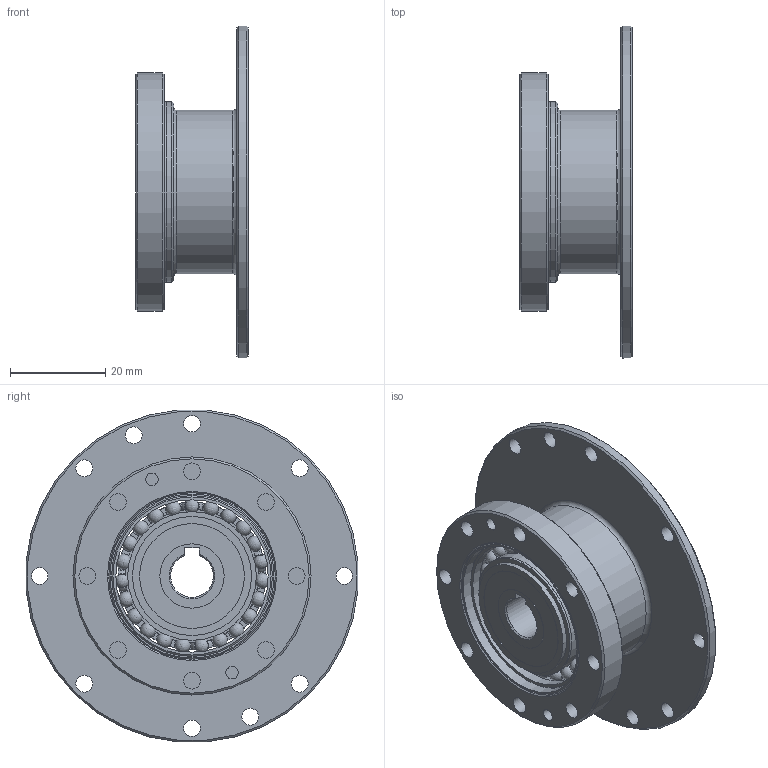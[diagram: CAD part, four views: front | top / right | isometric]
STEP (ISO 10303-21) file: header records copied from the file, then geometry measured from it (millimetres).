
FILE_DESCRIPTION(/* description */ (''),/* implementation_level */ '2;1');
FILE_NAME(/* name */ 'Getriebeset_HTG_35_FK.stp',/* time_stamp */ '2026-03-09T10:56:26+01:00',/* author */ (''),/* organization */ (''),/* preprocessor_version */ 'ST-DEVELOPER v19.4',/* originating_system */ 'SIEMENS PLM Software NX2212.9120',/* authorisation */ '');
FILE_SCHEMA (('AUTOMOTIVE_DESIGN { 1 0 10303 214 3 1 1 1 }'));
Length unit declared in the file: millimetre
Products named in the file (1): Getriebeset_HTG_35_FK
Bounding box: 23.7 x 69.73 x 69.73 mm (x, y, z)
Volume: 17530.9 mm3; surface area: 22267.8 mm2
Topology: 30 solids, 30 shells, 254 faces, 701 edges, 470 vertices
Faces by surface type: cylinder 82, plane 75, torus 44, sphere 35, cone 16, extrusion 2
Full cylindrical faces by diameter (mm): 2.6 x2, 3.5 x18, 13.5 x1, 22 x1, 23.71 x1, 23.94 x1, 25 x3, 27 x3, 27.01 x1, 28 x1, 32 x2, 33.8 x2, 34.327 x1, 35 x1, 35.5 x1, 38 x1, 48 x1, 50 x1, 70 x1
Entity records: 8351 total; most frequent: CARTESIAN_POINT 2574, ORIENTED_EDGE 1074, DIRECTION 1058, EDGE_CURVE 537, AXIS2_PLACEMENT_3D 500, VERTEX_POINT 416, EDGE_LOOP 358, ADVANCED_FACE 254
